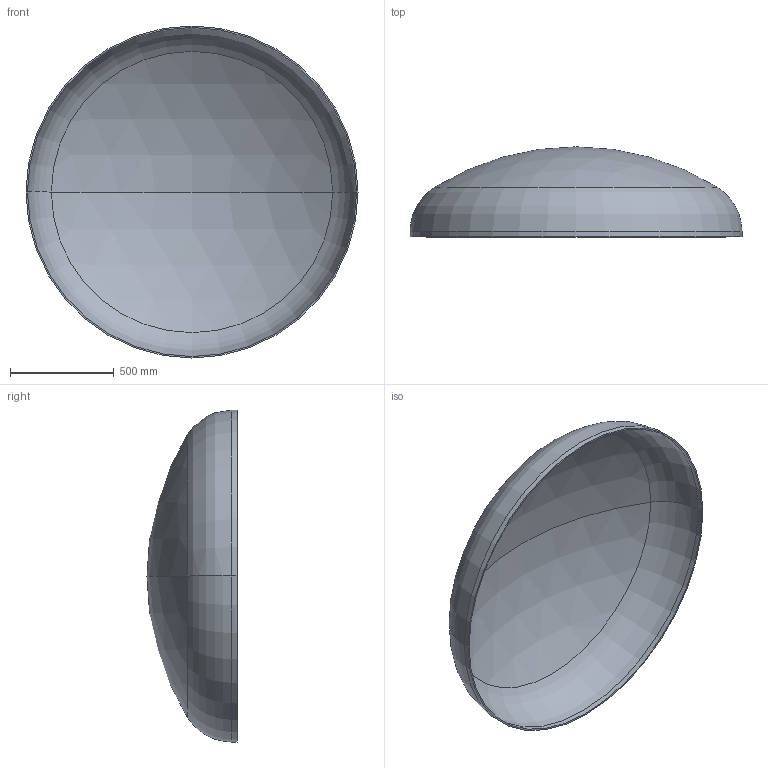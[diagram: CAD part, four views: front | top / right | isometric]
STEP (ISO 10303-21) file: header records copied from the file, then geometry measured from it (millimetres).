
FILE_DESCRIPTION (( 'STEP AP203' ), '1' );
FILE_NAME ('DIN 28013 Korbbogenform_-_Boden DIN 28013 - 1600 x 25 - I - s=7.step', '2016-07-01T11:03:25', ( '' ), ( '' ), 'SwSTEP 2.0', 'SolidWorks 2013', '' );
FILE_SCHEMA (( 'CONFIG_CONTROL_DESIGN' ));
Length unit declared in the file: millimetre
Products named in the file (1): DIN 28013 Korbbogenform_-_Boden DIN 28013 - 1600 x 25 - I - s=7
Bounding box: 1600 x 433.98 x 1600 mm (x, y, z)
Volume: 20235569.9 mm3; surface area: 5816723.6 mm2
Topology: 1 solids, 1 shells, 13 faces, 24 edges, 14 vertices
Faces by surface type: torus 4, cylinder 4, sphere 4, plane 1
Entity records: 407 total; most frequent: DIRECTION 72, CARTESIAN_POINT 52, ORIENTED_EDGE 48, AXIS2_PLACEMENT_3D 34, EDGE_CURVE 24, CIRCLE 20, VERTEX_POINT 14, EDGE_LOOP 14
